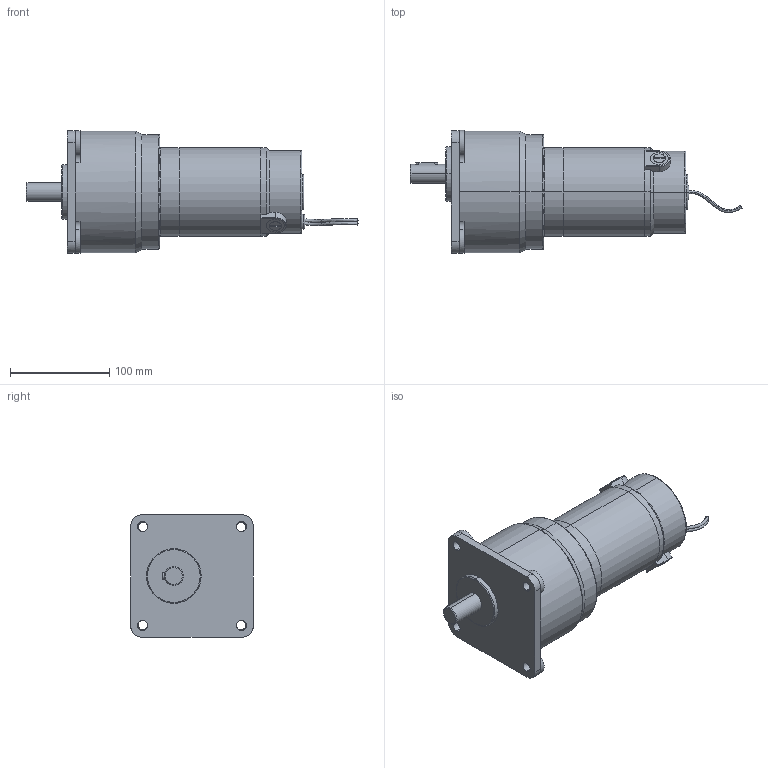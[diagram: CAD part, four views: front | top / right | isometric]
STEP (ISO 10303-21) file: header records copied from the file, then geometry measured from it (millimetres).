
FILE_DESCRIPTION (( 'STEP AP214' ), '1' );
FILE_NAME ('SF8156 2017.STEP', '2017-06-13T03:56:22', ( 'Sky123.Org' ), ( 'Sky123.Org' ), 'SwSTEP 2.0', 'SolidWorks 2015', '' );
FILE_SCHEMA (( 'AUTOMOTIVE_DESIGN' ));
Length unit declared in the file: millimetre
Products named in the file (5): SF8156 GEAR ASM; SF8156 gear; 零件1^SF8156 2017; 8156 MOTOR; SF8156 2017
Assembly tree (3 placements, depth 3):
  零件1^SF8156 2017
  SF8156 2017
    8156 MOTOR
    SF8156 GEAR ASM
      SF8156 gear
Bounding box: 334.13 x 123.67 x 123.67 mm (x, y, z)
Volume: 1989076 mm3; surface area: 157560.7 mm2
Topology: 14 solids, 14 shells, 248 faces, 562 edges, 350 vertices
Faces by surface type: cylinder 105, plane 96, cone 23, torus 16, sphere 4, bspline 4
Entity records: 8724 total; most frequent: CARTESIAN_POINT 1932, DIRECTION 1317, ORIENTED_EDGE 1104, EDGE_CURVE 552, AXIS2_PLACEMENT_3D 543, VERTEX_POINT 348, CIRCLE 292, EDGE_LOOP 276
